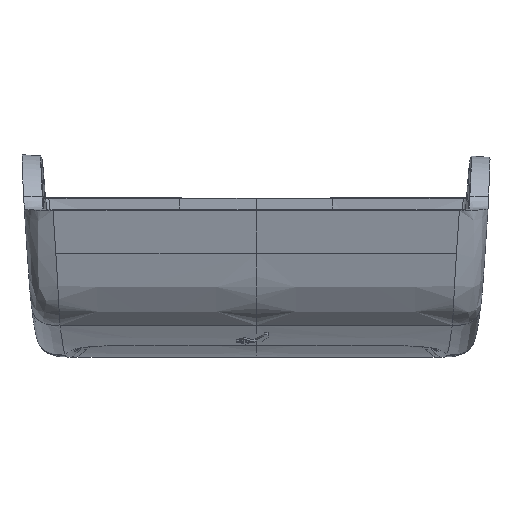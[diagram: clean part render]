
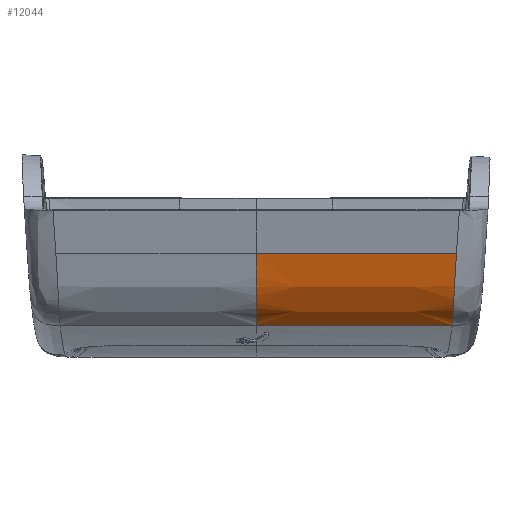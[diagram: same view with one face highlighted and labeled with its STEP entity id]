
A CAD part, top view. The second image highlights one B-rep face of the part: STEP entity #12044.
In plain terms, the highlighted free-form (B-spline) face has degree [5, 3] with [6, 4] control points.
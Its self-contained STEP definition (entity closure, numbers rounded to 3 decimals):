
#2128=CARTESIAN_POINT('Vertex',(-337.642,-951.381,304.035)) ;
#4563=CARTESIAN_POINT('Vertex',(-337.64,-939.788,312.699)) ;
#4773=CARTESIAN_POINT('Control Point',(-337.643,-951.381,304.035)) ;
#4774=CARTESIAN_POINT('Control Point',(-337.642,-950.163,310.114)) ;
#4775=CARTESIAN_POINT('Control Point',(-337.641,-945.801,311.187)) ;
#4776=CARTESIAN_POINT('Control Point',(-337.64,-939.788,312.699)) ;
#5631=CARTESIAN_POINT('Vertex',(-306.042,-951.381,304.023)) ;
#5635=CARTESIAN_POINT('Control Point',(-337.642,-951.381,304.035)) ;
#5636=CARTESIAN_POINT('Control Point',(-331.322,-951.381,304.032)) ;
#5637=CARTESIAN_POINT('Control Point',(-325.002,-951.381,304.03)) ;
#5638=CARTESIAN_POINT('Control Point',(-318.682,-951.381,304.028)) ;
#5639=CARTESIAN_POINT('Control Point',(-312.362,-951.381,304.025)) ;
#5640=CARTESIAN_POINT('Control Point',(-306.042,-951.382,304.023)) ;
#11111=CARTESIAN_POINT('Control Point',(-337.64,-939.788,312.699)) ;
#11112=CARTESIAN_POINT('Control Point',(-331.184,-939.787,312.695)) ;
#11113=CARTESIAN_POINT('Control Point',(-324.728,-939.787,312.69)) ;
#11114=CARTESIAN_POINT('Control Point',(-318.272,-939.786,312.686)) ;
#11115=CARTESIAN_POINT('Control Point',(-311.816,-939.786,312.682)) ;
#11116=CARTESIAN_POINT('Control Point',(-305.36,-939.786,312.678)) ;
#11117=CARTESIAN_POINT('Vertex',(-305.36,-939.786,312.678)) ;
#11978=CARTESIAN_POINT('Control Point',(-296.042,-951.382,304.019)) ;
#11979=CARTESIAN_POINT('Control Point',(-295.823,-950.163,310.098)) ;
#11980=CARTESIAN_POINT('Control Point',(-295.629,-945.795,311.16)) ;
#11981=CARTESIAN_POINT('Control Point',(-295.36,-939.785,312.671)) ;
#11982=CARTESIAN_POINT('Control Point',(-304.362,-951.382,304.022)) ;
#11983=CARTESIAN_POINT('Control Point',(-304.187,-950.163,310.101)) ;
#11984=CARTESIAN_POINT('Control Point',(-304.031,-945.797,311.166)) ;
#11985=CARTESIAN_POINT('Control Point',(-303.816,-939.785,312.677)) ;
#11986=CARTESIAN_POINT('Control Point',(-312.682,-951.381,304.026)) ;
#11987=CARTESIAN_POINT('Control Point',(-312.55,-950.163,310.104)) ;
#11988=CARTESIAN_POINT('Control Point',(-312.433,-945.798,311.171)) ;
#11989=CARTESIAN_POINT('Control Point',(-312.272,-939.786,312.682)) ;
#11990=CARTESIAN_POINT('Control Point',(-321.002,-951.381,304.029)) ;
#11991=CARTESIAN_POINT('Control Point',(-320.913,-950.163,310.107)) ;
#11992=CARTESIAN_POINT('Control Point',(-320.836,-945.799,311.177)) ;
#11993=CARTESIAN_POINT('Control Point',(-320.728,-939.787,312.688)) ;
#11994=CARTESIAN_POINT('Control Point',(-329.322,-951.381,304.032)) ;
#11995=CARTESIAN_POINT('Control Point',(-329.276,-950.163,310.111)) ;
#11996=CARTESIAN_POINT('Control Point',(-329.238,-945.8,311.182)) ;
#11997=CARTESIAN_POINT('Control Point',(-329.184,-939.787,312.693)) ;
#11998=CARTESIAN_POINT('Control Point',(-337.642,-951.381,304.035)) ;
#11999=CARTESIAN_POINT('Control Point',(-337.64,-950.163,310.114)) ;
#12000=CARTESIAN_POINT('Control Point',(-337.64,-945.801,311.187)) ;
#12001=CARTESIAN_POINT('Control Point',(-337.64,-939.788,312.699)) ;
#12003=CARTESIAN_POINT('Control Point',(-305.884,-949.008,308.799)) ;
#12004=CARTESIAN_POINT('Control Point',(-305.93,-949.882,307.926)) ;
#12005=CARTESIAN_POINT('Control Point',(-305.969,-950.587,306.853)) ;
#12006=CARTESIAN_POINT('Control Point',(-306.001,-951.079,305.531)) ;
#12007=CARTESIAN_POINT('Control Point',(-306.042,-951.382,304.023)) ;
#12008=CARTESIAN_POINT('Vertex',(-305.884,-949.008,308.799)) ;
#12012=CARTESIAN_POINT('Control Point',(-305.791,-947.186,310.179)) ;
#12013=CARTESIAN_POINT('Control Point',(-305.825,-947.857,309.79)) ;
#12014=CARTESIAN_POINT('Control Point',(-305.856,-948.469,309.337)) ;
#12015=CARTESIAN_POINT('Control Point',(-305.884,-949.008,308.799)) ;
#12016=CARTESIAN_POINT('Vertex',(-305.791,-947.186,310.179)) ;
#12020=CARTESIAN_POINT('Control Point',(-305.677,-945.021,311.178)) ;
#12021=CARTESIAN_POINT('Control Point',(-305.719,-945.792,310.891)) ;
#12022=CARTESIAN_POINT('Control Point',(-305.756,-946.519,310.566)) ;
#12023=CARTESIAN_POINT('Control Point',(-305.791,-947.186,310.179)) ;
#12024=CARTESIAN_POINT('Vertex',(-305.677,-945.021,311.178)) ;
#12028=CARTESIAN_POINT('Control Point',(-305.36,-939.786,312.678)) ;
#12029=CARTESIAN_POINT('Control Point',(-305.435,-940.897,312.398)) ;
#12030=CARTESIAN_POINT('Control Point',(-305.502,-941.973,312.129)) ;
#12031=CARTESIAN_POINT('Control Point',(-305.567,-943.06,311.84)) ;
#12032=CARTESIAN_POINT('Control Point',(-305.625,-944.068,311.533)) ;
#12033=CARTESIAN_POINT('Control Point',(-305.677,-945.021,311.178)) ;
#4777=EDGE_CURVE('',#2129,#4564,#4772,.T.) ;
#5641=EDGE_CURVE('',#2129,#5632,#5634,.T.) ;
#11119=EDGE_CURVE('',#4564,#11118,#11110,.T.) ;
#12010=EDGE_CURVE('',#12009,#5632,#12002,.T.) ;
#12018=EDGE_CURVE('',#12017,#12009,#12011,.T.) ;
#12026=EDGE_CURVE('',#12025,#12017,#12019,.T.) ;
#12034=EDGE_CURVE('',#11118,#12025,#12027,.T.) ;
#12036=ORIENTED_EDGE('',*,*,#4777,.F.) ;
#12037=ORIENTED_EDGE('',*,*,#5641,.T.) ;
#12038=ORIENTED_EDGE('',*,*,#12010,.F.) ;
#12039=ORIENTED_EDGE('',*,*,#12018,.F.) ;
#12040=ORIENTED_EDGE('',*,*,#12026,.F.) ;
#12041=ORIENTED_EDGE('',*,*,#12034,.F.) ;
#12042=ORIENTED_EDGE('',*,*,#11119,.F.) ;
#12044=ADVANCED_FACE('\X2\51E04F554F53\X0\.2',(#12043),#11977,.F.) ;
#2129=VERTEX_POINT('',#2128) ;
#4564=VERTEX_POINT('',#4563) ;
#5632=VERTEX_POINT('',#5631) ;
#11118=VERTEX_POINT('',#11117) ;
#12009=VERTEX_POINT('',#12008) ;
#12017=VERTEX_POINT('',#12016) ;
#12025=VERTEX_POINT('',#12024) ;
#4772=B_SPLINE_CURVE_WITH_KNOTS('',3,(#4773,#4774,#4775,#4776),.UNSPECIFIED.,.F.,.U.,(4,4),(0.,16.897),.UNSPECIFIED.) ;
#5634=B_SPLINE_CURVE_WITH_KNOTS('',5,(#5635,#5636,#5637,#5638,#5639,#5640),.UNSPECIFIED.,.F.,.U.,(6,6),(36.175,67.775),.UNSPECIFIED.) ;
#11110=B_SPLINE_CURVE_WITH_KNOTS('',5,(#11111,#11112,#11113,#11114,#11115,#11116),.UNSPECIFIED.,.F.,.U.,(6,6),(0.,45.65),.UNSPECIFIED.) ;
#12002=B_SPLINE_CURVE_WITH_KNOTS('',4,(#12003,#12004,#12005,#12006,#12007),.UNSPECIFIED.,.F.,.U.,(5,5),(0.,8.05),.UNSPECIFIED.) ;
#12011=B_SPLINE_CURVE_WITH_KNOTS('',3,(#12012,#12013,#12014,#12015),.UNSPECIFIED.,.F.,.U.,(4,4),(0.,3.627),.UNSPECIFIED.) ;
#12019=B_SPLINE_CURVE_WITH_KNOTS('',3,(#12020,#12021,#12022,#12023),.UNSPECIFIED.,.F.,.U.,(4,4),(0.,3.643),.UNSPECIFIED.) ;
#12027=B_SPLINE_CURVE_WITH_KNOTS('',5,(#12028,#12029,#12030,#12031,#12032,#12033),.UNSPECIFIED.,.F.,.U.,(6,6),(0.,7.676),.UNSPECIFIED.) ;
#11977=B_SPLINE_SURFACE_WITH_KNOTS('',5,3,((#11978,#11979,#11980,#11981),(#11982,#11983,#11984,#11985),(#11986,#11987,#11988,#11989),(#11990,#11991,#11992,#11993),(#11994,#11995,#11996,#11997),(#11998,#11999,#12000,#12001)),.UNSPECIFIED.,.F.,.F.,.U.,(6,6),(4,4),(0.,41.927),(0.,16.897),.UNSPECIFIED.) ;
#12035=EDGE_LOOP('',(#12036,#12037,#12038,#12039,#12040,#12041,#12042)) ;
#12043=FACE_OUTER_BOUND('',#12035,.T.) ;
